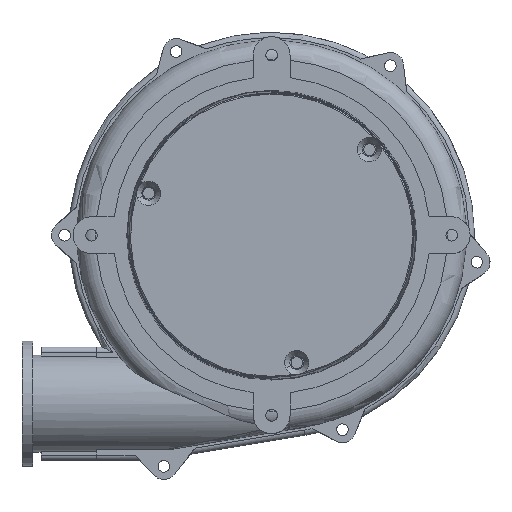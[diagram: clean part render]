
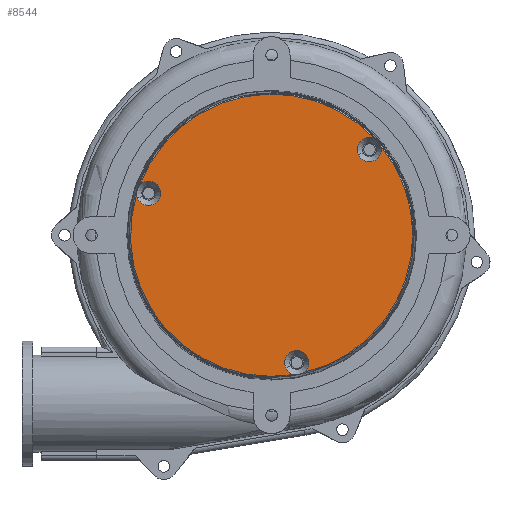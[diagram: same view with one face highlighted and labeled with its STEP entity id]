
A CAD part, front view. The second image highlights one B-rep face of the part: STEP entity #8544.
In plain terms, the highlighted planar face has unit normal (0, -1, 0).
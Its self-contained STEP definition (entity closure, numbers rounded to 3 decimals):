
#2550=CARTESIAN_POINT('',(0.,-35.683,
0.));
#2551=DIRECTION('',(0.,1.,0.));
#2552=DIRECTION('',(0.16,0.,-0.987));
#2553=AXIS2_PLACEMENT_3D('',#2550,#2551,#2552);
#2558=CARTESIAN_POINT('',(-23.354,-35.683,
7.964));
#2559=DIRECTION('',(0.,1.,0.));
#2560=DIRECTION('',(-0.906,0.,-0.423));
#2561=AXIS2_PLACEMENT_3D('',#2558,#2559,#2560);
#2566=CARTESIAN_POINT('',(-23.354,-35.683,
7.964));
#2567=DIRECTION('',(0.,1.,0.));
#2568=DIRECTION('',(0.906,0.,0.423));
#2569=AXIS2_PLACEMENT_3D('',#2566,#2567,#2568);
#2574=CARTESIAN_POINT('',(-23.354,-35.683,
7.964));
#2575=DIRECTION('',(0.,1.,0.));
#2576=DIRECTION('',(-0.739,0.,0.673));
#2577=AXIS2_PLACEMENT_3D('',#2574,#2575,#2576);
#2582=CARTESIAN_POINT('',(0.,-35.683,
0.));
#2583=DIRECTION('',(0.,1.,0.));
#2584=DIRECTION('',(-0.935,0.,0.355));
#2585=AXIS2_PLACEMENT_3D('',#2582,#2583,#2584);
#2590=CARTESIAN_POINT('',(0.,-35.683,
0.));
#2591=DIRECTION('',(0.,1.,0.));
#2592=DIRECTION('',(-0.194,0.,0.981));
#2593=AXIS2_PLACEMENT_3D('',#2590,#2591,#2592);
#2598=CARTESIAN_POINT('',(18.574,-35.683,16.243));
#2599=DIRECTION('',(0.,1.,0.));
#2600=DIRECTION('',(-0.906,0.,-0.423));
#2601=AXIS2_PLACEMENT_3D('',#2598,#2599,#2600);
#2606=CARTESIAN_POINT('',(18.574,-35.683,16.243));
#2607=DIRECTION('',(0.,1.,0.));
#2608=DIRECTION('',(0.953,0.,0.304));
#2609=AXIS2_PLACEMENT_3D('',#2606,#2607,#2608);
#2614=CARTESIAN_POINT('',(0.,-35.683,
0.));
#2615=DIRECTION('',(0.,1.,0.));
#2616=DIRECTION('',(0.775,0.,0.632));
#2617=AXIS2_PLACEMENT_3D('',#2614,#2615,#2616);
#2622=CARTESIAN_POINT('',(0.,-35.683,
0.));
#2623=DIRECTION('',(0.,1.,0.));
#2624=DIRECTION('',(0.946,0.,-0.323));
#2625=AXIS2_PLACEMENT_3D('',#2622,#2623,#2624);
#2630=CARTESIAN_POINT('',(4.78,-35.683,
-24.208));
#2631=DIRECTION('',(0.,1.,0.));
#2632=DIRECTION('',(0.906,0.,0.423));
#2633=AXIS2_PLACEMENT_3D('',#2630,#2631,#2632);
#2638=CARTESIAN_POINT('',(4.78,-35.683,
-24.208));
#2639=DIRECTION('',(0.,1.,0.));
#2640=DIRECTION('',(-0.906,0.,-0.423));
#2641=AXIS2_PLACEMENT_3D('',#2638,#2639,#2640);
#2646=CARTESIAN_POINT('',(4.78,-35.683,
-24.208));
#2647=DIRECTION('',(0.,1.,0.));
#2648=DIRECTION('',(-0.214,0.,-0.977));
#2649=AXIS2_PLACEMENT_3D('',#2646,#2647,#2648);
#3000=CARTESIAN_POINT('',(19.559,-35.683,18.322));
#6188=CARTESIAN_POINT('',(6.864,-35.683,
-23.234));
#6189=CARTESIAN_POINT('',(6.088,-35.683,
-26.099));
#6190=VERTEX_POINT('',#6188);
#6191=VERTEX_POINT('',#6189);
#6192=CARTESIAN_POINT('',(4.289,-35.683,
-26.455));
#6193=CARTESIAN_POINT('',(2.696,-35.683,
-25.181));
#6194=VERTEX_POINT('',#6192);
#6195=VERTEX_POINT('',#6193);
#6200=CARTESIAN_POINT('',(-25.438,-35.683,
6.991));
#6201=CARTESIAN_POINT('',(-25.647,-35.683,
7.777));
#6202=VERTEX_POINT('',#6200);
#6203=VERTEX_POINT('',#6201);
#6204=CARTESIAN_POINT('',(-25.055,-35.683,
9.513));
#6205=CARTESIAN_POINT('',(-21.271,-35.683,
8.938));
#6206=VERTEX_POINT('',#6204);
#6207=VERTEX_POINT('',#6205);
#6213=VERTEX_POINT('',#3000);
#6218=CARTESIAN_POINT('',(20.766,-35.683,16.942));
#6219=CARTESIAN_POINT('',(16.491,-35.683,15.27));
#6220=VERTEX_POINT('',#6218);
#6221=VERTEX_POINT('',#6219);
#6222=CARTESIAN_POINT('',(-5.19,-35.683,
26.293));
#6223=VERTEX_POINT('',#6222);
#6224=CARTESIAN_POINT('',(25.366,-35.683,
-8.649));
#6225=VERTEX_POINT('',#6224);
#8514=CARTESIAN_POINT('',(0.,-35.683,0.));
#8515=DIRECTION('',(0.,1.,0.));
#8516=DIRECTION('',(-0.906,0.,-0.423));
#8517=AXIS2_PLACEMENT_3D('',#8514,#8515,#8516);
#8518=PLANE('',#8517);
#8519=ORIENTED_EDGE('',*,*,#8493,.T.);
#8521=ORIENTED_EDGE('',*,*,#8520,.F.);
#8523=ORIENTED_EDGE('',*,*,#8522,.F.);
#8525=ORIENTED_EDGE('',*,*,#8524,.F.);
#8526=ORIENTED_EDGE('',*,*,#8507,.T.);
#8528=ORIENTED_EDGE('',*,*,#8527,.T.);
#8530=ORIENTED_EDGE('',*,*,#8529,.F.);
#8532=ORIENTED_EDGE('',*,*,#8531,.F.);
#8534=ORIENTED_EDGE('',*,*,#8533,.T.);
#8535=ORIENTED_EDGE('',*,*,#8497,.T.);
#8537=ORIENTED_EDGE('',*,*,#8536,.F.);
#8539=ORIENTED_EDGE('',*,*,#8538,.F.);
#8541=ORIENTED_EDGE('',*,*,#8540,.F.);
#8542=EDGE_LOOP('',(#8519,#8521,#8523,#8525,#8526,#8528,#8530,#8532,#8534,#8535,
#8537,#8539,#8541));
#8543=FACE_OUTER_BOUND('',#8542,.F.);
#8544=ADVANCED_FACE('',(#8543),#8518,.F.);
#2554=CIRCLE('',#2553,26.8);
#2562=CIRCLE('',#2561,2.3);
#2570=CIRCLE('',#2569,2.3);
#2578=CIRCLE('',#2577,2.3);
#2586=CIRCLE('',#2585,26.8);
#2594=CIRCLE('',#2593,26.8);
#2602=CIRCLE('',#2601,2.3);
#2610=CIRCLE('',#2609,2.3);
#2618=CIRCLE('',#2617,26.8);
#2626=CIRCLE('',#2625,26.8);
#2634=CIRCLE('',#2633,2.3);
#2642=CIRCLE('',#2641,2.3);
#2650=CIRCLE('',#2649,2.3);
#8493=EDGE_CURVE('',#6194,#6203,#2554,.T.);
#8497=EDGE_CURVE('',#6225,#6191,#2626,.T.);
#8507=EDGE_CURVE('',#6206,#6223,#2586,.T.);
#8520=EDGE_CURVE('',#6202,#6203,#2562,.T.);
#8522=EDGE_CURVE('',#6207,#6202,#2570,.T.);
#8524=EDGE_CURVE('',#6206,#6207,#2578,.T.);
#8527=EDGE_CURVE('',#6223,#6213,#2594,.T.);
#8529=EDGE_CURVE('',#6221,#6213,#2602,.T.);
#8531=EDGE_CURVE('',#6220,#6221,#2610,.T.);
#8533=EDGE_CURVE('',#6220,#6225,#2618,.T.);
#8536=EDGE_CURVE('',#6190,#6191,#2634,.T.);
#8538=EDGE_CURVE('',#6195,#6190,#2642,.T.);
#8540=EDGE_CURVE('',#6194,#6195,#2650,.T.);
